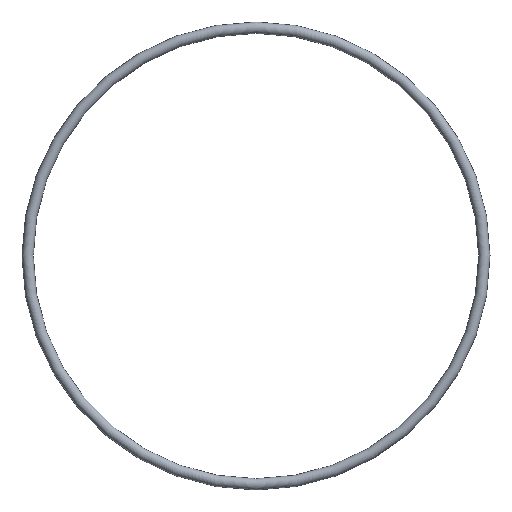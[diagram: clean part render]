
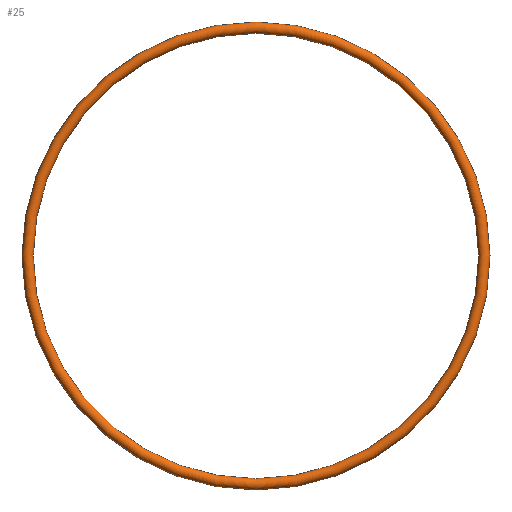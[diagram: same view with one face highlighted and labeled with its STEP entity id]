
A CAD part, top view. The second image highlights one B-rep face of the part: STEP entity #25.
In plain terms, the highlighted toroidal (fillet/blend) face has major radius 107.2 mm and minor radius 2.65 mm.
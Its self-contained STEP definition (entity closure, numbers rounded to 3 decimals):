
#25 = ADVANCED_FACE( '', (  ), #44, .T. );
#44 = TOROIDAL_SURFACE( '', #53, 107.2, 2.65 );
#53 = AXIS2_PLACEMENT_3D( '', #56, #57, #58 );
#56 = CARTESIAN_POINT( '', ( 0., 0., 0. ) );
#57 = DIRECTION( '', ( 0., 0., -1. ) );
#58 = DIRECTION( '', ( -1., 0., 0. ) );
